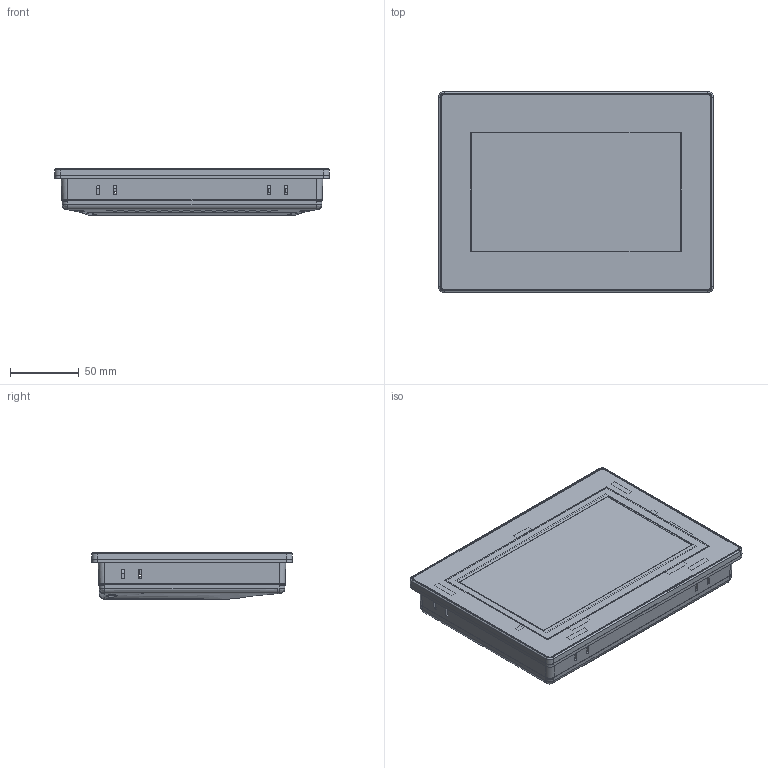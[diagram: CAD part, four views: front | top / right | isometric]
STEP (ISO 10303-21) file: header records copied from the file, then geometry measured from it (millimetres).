
FILE_DESCRIPTION (( 'STEP AP203' ), '1' );
FILE_NAME ('NHJ400M配套触摸屏TK8072iP.STEP', '2026-08-28T06:40:08', ( '' ), ( '' ), 'SwSTEP 2.0', 'SolidWorks 2024', '' );
FILE_SCHEMA (( 'CONFIG_CONTROL_DESIGN' ));
Products named in the file (1): NHJ400M配套触摸屏TK8072iP
Bounding box: 200.4 x 146.5 x 34.2 mm (x, y, z)
Volume: 289300.5 mm3; surface area: 257482.3 mm2
Topology: 20 solids, 20 shells, 3455 faces, 9682 edges, 6313 vertices
Faces by surface type: plane 1811, cylinder 876, bspline 473, cone 169, torus 106, sphere 20
Entity records: 156537 total; most frequent: CARTESIAN_POINT 73651, ORIENTED_EDGE 19294, DIRECTION 14190, EDGE_CURVE 9647, VERTEX_POINT 6298, VECTOR 5812, LINE 5812, AXIS2_PLACEMENT_3D 4189
